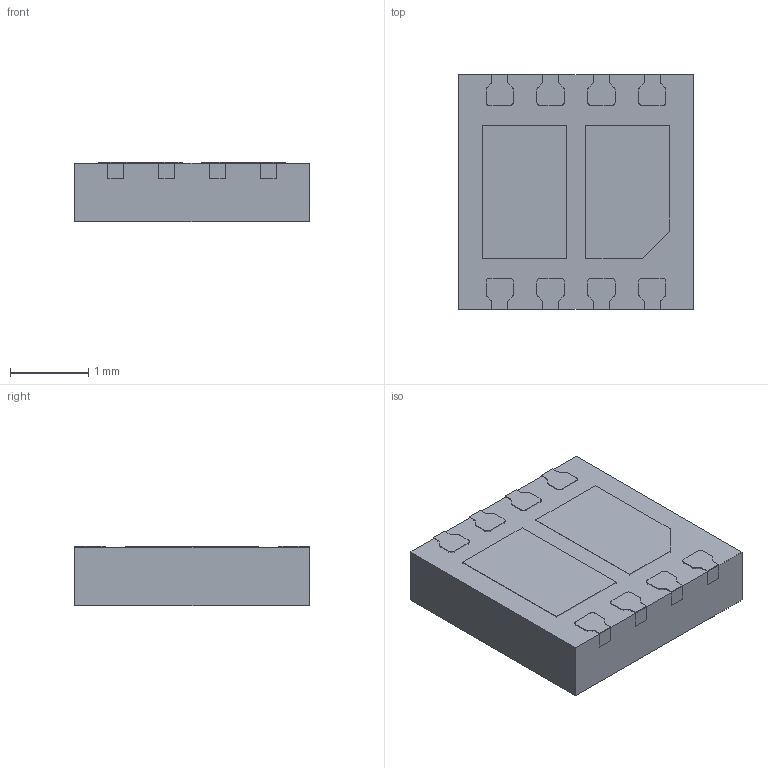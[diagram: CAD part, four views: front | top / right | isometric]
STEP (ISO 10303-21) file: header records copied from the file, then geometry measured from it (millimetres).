
FILE_DESCRIPTION (( 'STEP AP203' ), '1' );
FILE_NAME ('3D DFN3030B-8L.STEP', '2023-07-24T05:43:11', ( '' ), ( '' ), 'SwSTEP 2.0', 'SolidWorks 2022', '' );
FILE_SCHEMA (( 'CONFIG_CONTROL_DESIGN' ));
Length unit declared in the file: millimetre
Products named in the file (1): 3D DFN3030B-8L
Bounding box: 3 x 3 x 0.77 mm (x, y, z)
Surface area: 40.8 mm2
Topology: 11 solids, 11 shells, 147 faces, 375 edges, 250 vertices
Faces by surface type: plane 99, cylinder 48
Entity records: 4502 total; most frequent: CARTESIAN_POINT 773, DIRECTION 767, ORIENTED_EDGE 750, EDGE_CURVE 375, LINE 279, VECTOR 279, VERTEX_POINT 250, AXIS2_PLACEMENT_3D 244
